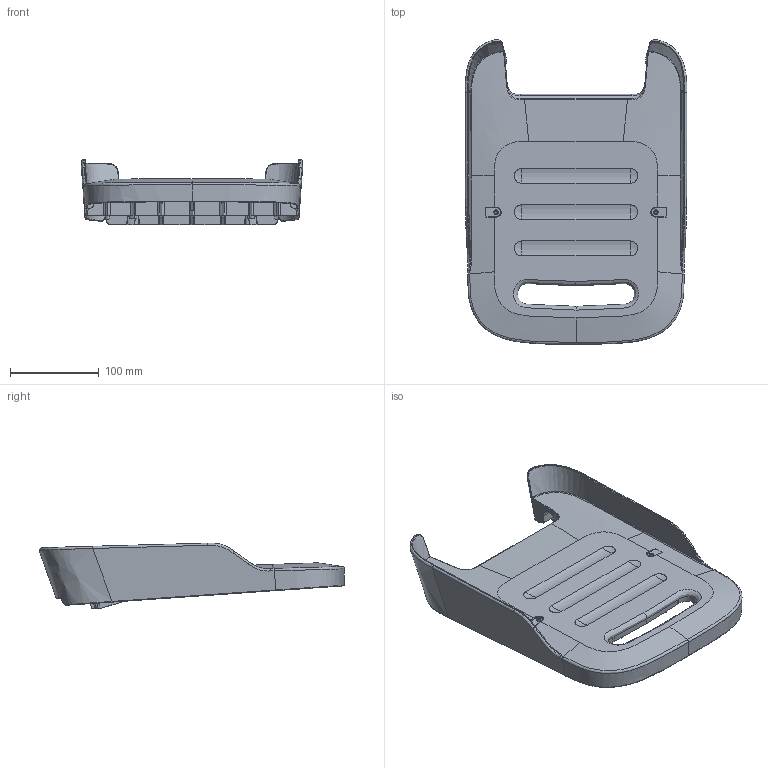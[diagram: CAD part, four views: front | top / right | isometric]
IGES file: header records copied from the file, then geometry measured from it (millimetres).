
Start section: SolidWorks IGES file using analytic representation for surfaces
Global section: file name: D:\Hans-Work\ev1-opensource\open source\interface pack\Footrest Accessory Interface\Footrest-3D.IGS; native system: SolidWorks 2023; preprocessor: SolidWorks 2023; author: hans.cai; date: 260408.113900; units: millimetre
Bounding box: 249.64 x 343.12 x 74.13 mm (x, y, z)
Volume: 485926 mm3; surface area: 322390 mm2
Topology: 1 solids, 1 shells, 1445 faces, 3569 edges, 2106 vertices
Faces by surface type: bspline 777, revolution 409, plane 259
